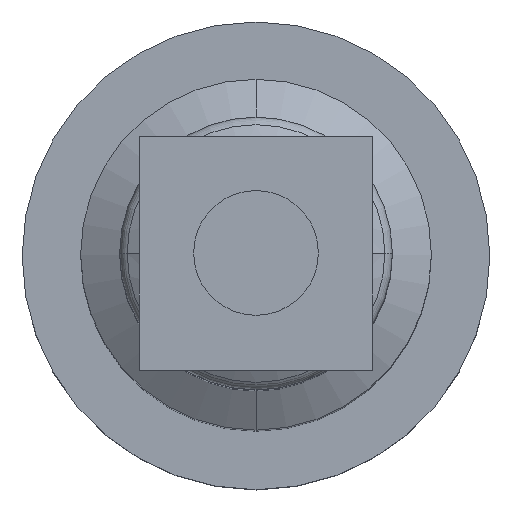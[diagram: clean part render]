
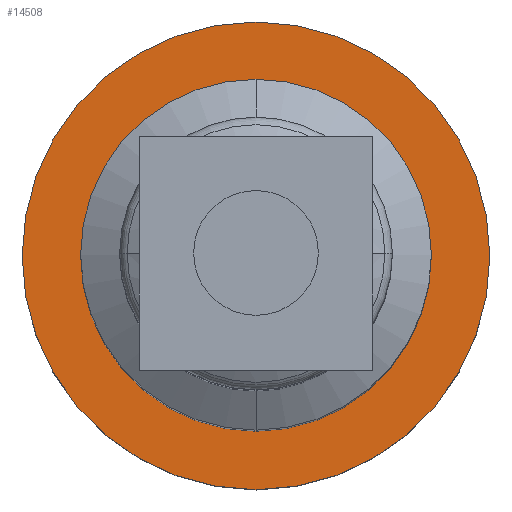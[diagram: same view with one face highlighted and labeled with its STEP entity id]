
A CAD part, top view. The second image highlights one B-rep face of the part: STEP entity #14508.
In plain terms, the highlighted planar face has unit normal (0, 0, 1).
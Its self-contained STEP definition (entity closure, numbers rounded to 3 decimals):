
#378 = DIRECTION ( 'NONE',  ( 0., 1., 0. ) ) ;
#755 = EDGE_CURVE ( 'NONE', #15264, #9963, #1879, .T. ) ;
#879 = EDGE_LOOP ( 'NONE', ( #15595, #2123 ) ) ;
#1137 = CARTESIAN_POINT ( 'NONE',  ( 0., 0., 35. ) ) ;
#1174 = DIRECTION ( 'NONE',  ( 0., 1., 0. ) ) ;
#1232 = AXIS2_PLACEMENT_3D ( 'NONE', #8160, #1761, #15836 ) ;
#1309 = AXIS2_PLACEMENT_3D ( 'NONE', #13849, #2522, #4978 ) ;
#1761 = DIRECTION ( 'NONE',  ( 0., 0., 1. ) ) ;
#1879 = CIRCLE ( 'NONE', #1309, 30. ) ;
#2123 = ORIENTED_EDGE ( 'NONE', *, *, #14455, .T. ) ;
#2215 = CIRCLE ( 'NONE', #12924, 22.5 ) ;
#2522 = DIRECTION ( 'NONE',  ( 0., 0., -1. ) ) ;
#4007 = CIRCLE ( 'NONE', #6601, 22.5 ) ;
#4978 = DIRECTION ( 'NONE',  ( 0., 1., 0. ) ) ;
#6601 = AXIS2_PLACEMENT_3D ( 'NONE', #11287, #8791, #1174 ) ;
#6911 = CARTESIAN_POINT ( 'NONE',  ( 0., 22.5, 35. ) ) ;
#6945 = CARTESIAN_POINT ( 'NONE',  ( 0., 0., 35. ) ) ;
#7470 = VERTEX_POINT ( 'NONE', #13072 ) ;
#7537 = DIRECTION ( 'NONE',  ( 0., 1., 0. ) ) ;
#7877 = EDGE_LOOP ( 'NONE', ( #12449, #12224 ) ) ;
#8106 = DIRECTION ( 'NONE',  ( 0., 0., -1. ) ) ;
#8160 = CARTESIAN_POINT ( 'NONE',  ( 0., 22.5, 35. ) ) ;
#8161 = FACE_OUTER_BOUND ( 'NONE', #7877, .T. ) ;
#8539 = CARTESIAN_POINT ( 'NONE',  ( 0., 30., 35. ) ) ;
#8791 = DIRECTION ( 'NONE',  ( 0., 0., -1. ) ) ;
#8962 = FACE_BOUND ( 'NONE', #879, .T. ) ;
#9124 = VERTEX_POINT ( 'NONE', #6911 ) ;
#9312 = EDGE_CURVE ( 'NONE', #9124, #7470, #4007, .T. ) ;
#9340 = CIRCLE ( 'NONE', #16256, 30. ) ;
#9963 = VERTEX_POINT ( 'NONE', #11472 ) ;
#11287 = CARTESIAN_POINT ( 'NONE',  ( 0., 0., 35. ) ) ;
#11472 = CARTESIAN_POINT ( 'NONE',  ( 0., -30., 35. ) ) ;
#11886 = PLANE ( 'NONE',  #1232 ) ;
#12224 = ORIENTED_EDGE ( 'NONE', *, *, #15335, .F. ) ;
#12449 = ORIENTED_EDGE ( 'NONE', *, *, #755, .F. ) ;
#12924 = AXIS2_PLACEMENT_3D ( 'NONE', #6945, #8106, #378 ) ;
#13072 = CARTESIAN_POINT ( 'NONE',  ( 0., -22.5, 35. ) ) ;
#13849 = CARTESIAN_POINT ( 'NONE',  ( 0., 0., 35. ) ) ;
#14455 = EDGE_CURVE ( 'NONE', #7470, #9124, #2215, .T. ) ;
#14508 = ADVANCED_FACE ( 'NONE', ( #8962, #8161 ), #11886, .T. ) ;
#15004 = DIRECTION ( 'NONE',  ( 0., 0., -1. ) ) ;
#15264 = VERTEX_POINT ( 'NONE', #8539 ) ;
#15335 = EDGE_CURVE ( 'NONE', #9963, #15264, #9340, .T. ) ;
#15595 = ORIENTED_EDGE ( 'NONE', *, *, #9312, .T. ) ;
#15836 = DIRECTION ( 'NONE',  ( 0., -1., 0. ) ) ;
#16256 = AXIS2_PLACEMENT_3D ( 'NONE', #1137, #15004, #7537 ) ;
